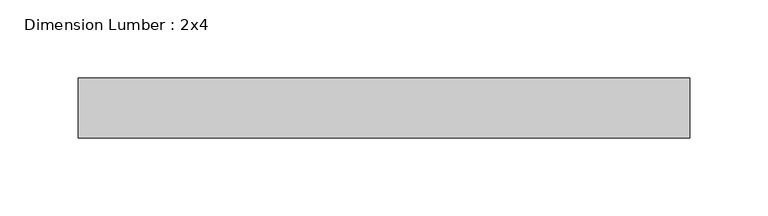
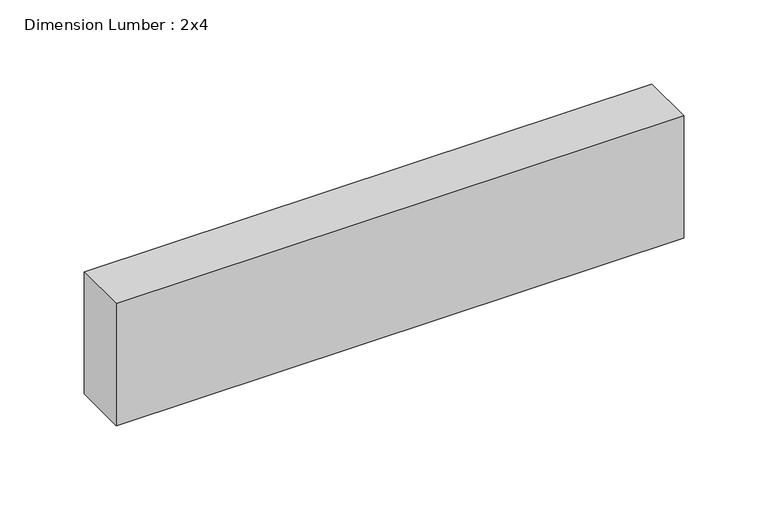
"""IFC4 building model written with IfcOpenShell, lengths in millimetres: beam geometry, Dimension Lumber : 2x4."""

from ifc_helpers import new_model, si_unit, frame, origin, place, context, project, spatial, polyline, outline, extrude, source, transform, mapped, element, save


def dimension_lumber_2x4_eace18a3(model_context):
    return source(origin(), model_context, "Body", "SweptSolid", [
        extrude(outline(polyline([(195.1116366, 19.05), (195.1116366, -19.05), (-195.1116366, -19.05), (-195.1116366, 19.05), (195.1116366, 19.05)])), frame((0.0, 0.0, -44.45), z_axis=(0.0, 0.0, 1.0), x_axis=(1.0, 0.0, 0.0)), (0.0, 0.0, 1.0), 88.9),
    ])


if __name__ == "__main__":
    model = new_model("IFC4")
    model_context = context("Model", 3, world=origin())
    ifc_project = project(units=[si_unit("LENGTHUNIT", "METRE", prefix="MILLI")], contexts=[model_context])
    site = spatial("IfcSite", under=ifc_project)
    building = spatial("IfcBuilding", under=site)
    placement = place(None, origin())
    dimension_lumber_2x4_shape = dimension_lumber_2x4_eace18a3(model_context)
    element("IfcBeam", 1, ObjectType="Dimension Lumber : 2x4", at=placement, inside=building, context=model_context, shape_type="MappedRepresentation", body=[
        mapped(dimension_lumber_2x4_shape, transform((0.0, 0.0, 0.0), x_axis=(1.0, 0.0, 0.0), y_axis=(0.0, 1.0, 0.0), z_axis=(0.0, 0.0, 1.0))),
    ])
    save(model, "model.ifc")
